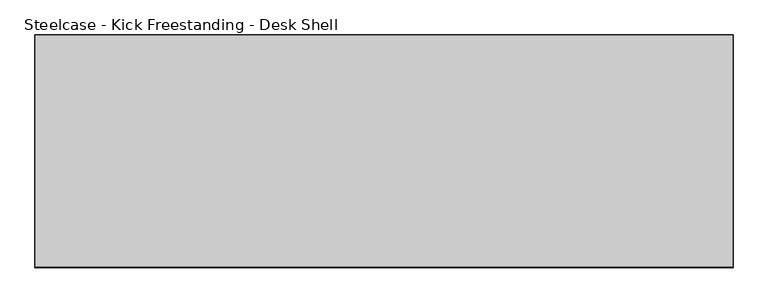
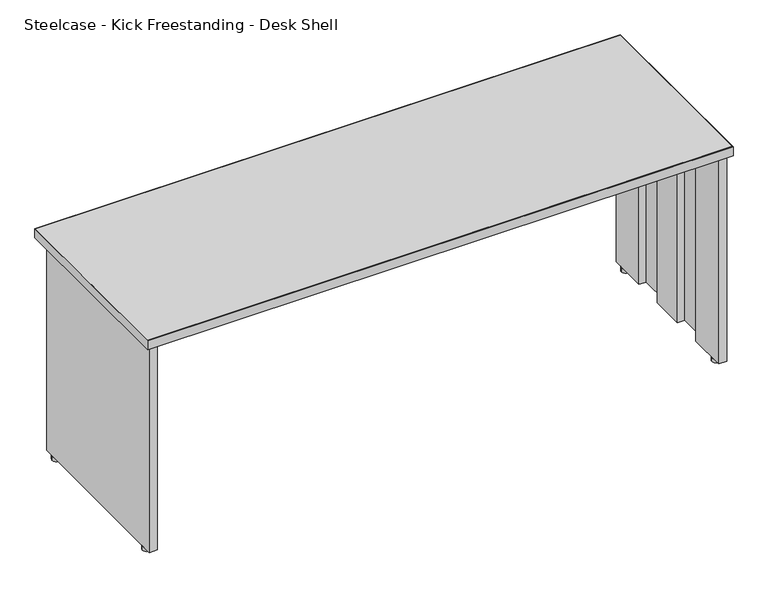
"""IFC4 building model written with IfcOpenShell, lengths in millimetres: furniture geometry, Steelcase - Kick Freestanding - Desk Shell : 24D x 72W."""

from ifc_helpers import new_model, si_unit, point, frame, frame_2d, origin, origin_with_axes, place, context, project, spatial, polyline, circle_curve, trimmed, segment, composite_curve, outline, extrude, source, transform, mapped, element, save


def steelcase_kick_freestanding_desk_shell_d5099e78(model_context):
    return source(origin(), model_context, "Body", "SweptSolid", [
        extrude(outline(composite_curve([segment(trimmed(circle_curve(frame_2d((665.1357759, -1004.2087877)), 13.97), [point((651.1657759, -1004.2087877))], [point((679.1057759, -1004.2087877))], False, "CARTESIAN"), True, "CONTINUOUS"), segment(trimmed(circle_curve(frame_2d((665.1357759, -1004.2087877)), 13.97), [point((679.1057759, -1004.2087877))], [point((651.1657759, -1004.2087877))], False, "CARTESIAN"), True, "CONTINUOUS")], self_intersect=False)), origin_with_axes(), (0.0, 0.0, 1.0), 12.446),
        extrude(outline(composite_curve([segment(trimmed(circle_curve(frame_2d((665.1357759, -1493.6441481)), 13.97), [point((651.1657759, -1493.6441481))], [point((679.1057759, -1493.6441481))], False, "CARTESIAN"), True, "CONTINUOUS"), segment(trimmed(circle_curve(frame_2d((665.1357759, -1493.6441481)), 13.97), [point((679.1057759, -1493.6441481))], [point((651.1657759, -1493.6441481))], False, "CARTESIAN"), True, "CONTINUOUS")], self_intersect=False)), origin_with_axes(), (0.0, 0.0, 1.0), 12.446),
        extrude(outline(polyline([(2431.4738425, -1096.0529604), (2431.4738425, -972.7867604), (2455.9594421, -972.7867604), (2455.9594421, -1528.538741), (2431.4738421, -1528.538741), (2431.4738421, -1404.2311348), (2453.9020425, -1404.2311348), (2453.9020425, -1304.5107682), (2431.4738421, -1304.5107682), (2431.4738421, -1195.7733647), (2453.9020425, -1195.7733647), (2453.9020425, -1096.0529604), (2431.4738425, -1096.0529604)])), frame((0.0, 0.0, 12.446), z_axis=(0.0, 0.0, 1.0), x_axis=(1.0, 0.0, 0.0)), (0.0, 0.0, 1.0), 682.498),
        extrude(outline(polyline([(677.0450425, -1096.0529604), (654.6168425, -1096.0529604), (654.6168425, -1195.7733647), (677.0450429, -1195.7733647), (677.0450429, -1304.5107682), (654.6168425, -1304.5107682), (654.6168425, -1404.2311348), (677.0450429, -1404.2311348), (677.0450429, -1528.538741), (652.5594429, -1528.538741), (652.5594429, -972.7867604), (677.0450425, -972.7867604), (677.0450425, -1096.0529604)])), frame((0.0, 0.0, 12.446), z_axis=(0.0, 0.0, 1.0), x_axis=(1.0, 0.0, 0.0)), (0.0, 0.0, 1.0), 682.498),
        extrude(outline(polyline([(2467.6688425, -932.6293604), (2467.6688425, -1538.2669215), (640.8500425, -1538.2669215), (640.8500425, -932.6293604), (2467.6688425, -932.6293604)])), frame((0.0, 0.0, 694.944), z_axis=(0.0, 0.0, 1.0), x_axis=(1.0, 0.0, 0.0)), (0.0, 0.0, 1.0), 28.956),
        extrude(outline(polyline([(2468.6594425, -931.6387604), (2468.6594425, -1541.2387604), (639.8594425, -1541.2387604), (639.8594425, -931.6387604), (2468.6594425, -931.6387604)]), holes=[polyline([(2467.6688425, -932.6293604), (640.8500425, -932.6293604), (640.8500425, -1538.2669215), (2467.6688425, -1538.2669215), (2467.6688425, -932.6293604)])]), frame((0.0, 0.0, 694.944), z_axis=(0.0, 0.0, 1.0), x_axis=(1.0, 0.0, 0.0)), (0.0, 0.0, 1.0), 28.956),
        extrude(outline(composite_curve([segment(trimmed(circle_curve(frame_2d((2443.3831091, -1493.6441481)), 13.97), [point((2429.4131091, -1493.6441481))], [point((2457.3531091, -1493.6441481))], False, "CARTESIAN"), True, "CONTINUOUS"), segment(trimmed(circle_curve(frame_2d((2443.3831091, -1493.6441481)), 13.97), [point((2457.3531091, -1493.6441481))], [point((2429.4131091, -1493.6441481))], False, "CARTESIAN"), True, "CONTINUOUS")], self_intersect=False)), origin_with_axes(), (0.0, 0.0, 1.0), 12.446),
        extrude(outline(composite_curve([segment(trimmed(circle_curve(frame_2d((2443.3831091, -1004.2087877)), 13.97), [point((2457.3531091, -1004.2087877))], [point((2429.4131091, -1004.2087877))], False, "CARTESIAN"), True, "CONTINUOUS"), segment(trimmed(circle_curve(frame_2d((2443.3831091, -1004.2087877)), 13.97), [point((2429.4131091, -1004.2087877))], [point((2457.3531091, -1004.2087877))], False, "CARTESIAN"), True, "CONTINUOUS")], self_intersect=False)), origin_with_axes(), (0.0, 0.0, 1.0), 12.446),
    ])


if __name__ == "__main__":
    model = new_model("IFC4")
    model_context = context("Model", 3, world=origin())
    ifc_project = project(units=[si_unit("LENGTHUNIT", "METRE", prefix="MILLI")], contexts=[model_context])
    site = spatial("IfcSite", under=ifc_project)
    building = spatial("IfcBuilding", under=site)
    placement = place(None, origin())
    steelcase_kick_freestanding_desk_shell_shape = steelcase_kick_freestanding_desk_shell_d5099e78(model_context)
    element("IfcFurniture", 1, ObjectType="Steelcase - Kick Freestanding - Desk Shell : 24D x 72W", at=placement, inside=building, context=model_context, shape_type="MappedRepresentation", body=[
        mapped(steelcase_kick_freestanding_desk_shell_shape, transform((0.0, 0.0, 0.0), x_axis=(1.0, 0.0, 0.0), y_axis=(0.0, 1.0, 0.0), z_axis=(0.0, 0.0, 1.0))),
    ])
    save(model, "model.ifc")
